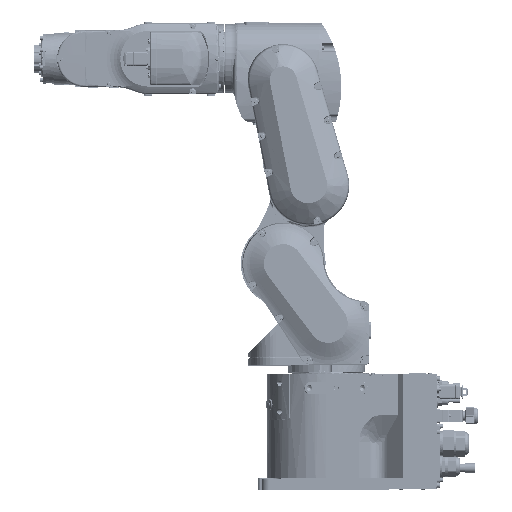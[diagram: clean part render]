
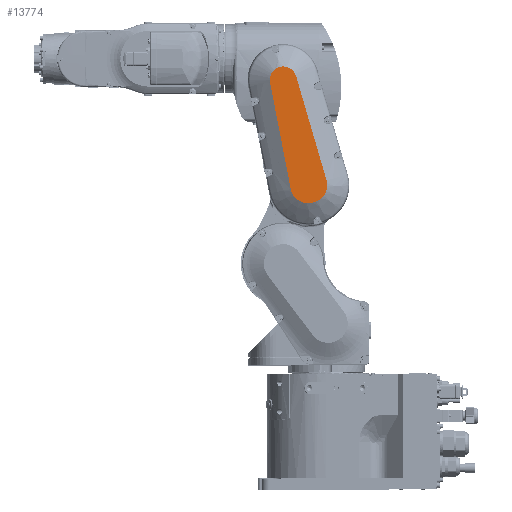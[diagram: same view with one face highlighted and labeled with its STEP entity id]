
A CAD part, top view. The second image highlights one B-rep face of the part: STEP entity #13774.
In plain terms, the highlighted planar face has unit normal (0, 0, 1).
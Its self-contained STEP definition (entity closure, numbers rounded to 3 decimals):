
#3783 = VERTEX_POINT ( 'NONE', #40633 ) ;
#4058 = PLANE ( 'NONE',  #230538 ) ;
#4965 = EDGE_CURVE ( 'NONE', #94850, #153814, #10475, .T. ) ;
#8621 = AXIS2_PLACEMENT_3D ( 'NONE', #164963, #31766, #148691 ) ;
#9289 = CIRCLE ( 'NONE', #148322, 23.991 ) ;
#10475 = CIRCLE ( 'NONE', #177390, 18.991 ) ;
#13774 = ADVANCED_FACE ( 'NONE', ( #21545 ), #4058, .F. ) ;
#15983 = CARTESIAN_POINT ( 'NONE',  ( 47.041, 166.832, 110. ) ) ;
#19100 = DIRECTION ( 'NONE',  ( 0., -1., 0. ) ) ;
#19559 = EDGE_CURVE ( 'NONE', #195968, #117550, #46855, .T. ) ;
#21545 = FACE_OUTER_BOUND ( 'NONE', #242878, .T. ) ;
#25167 = DIRECTION ( 'NONE',  ( 0., 0., 1. ) ) ;
#25589 = CARTESIAN_POINT ( 'NONE',  ( -18.642, 256.376, 110. ) ) ;
#28035 = DIRECTION ( 'NONE',  ( -0.982, -0.191, 0. ) ) ;
#28436 = CARTESIAN_POINT ( 'NONE',  ( 10.719, 105.265, 110. ) ) ;
#30471 = ORIENTED_EDGE ( 'NONE', *, *, #4965, .T. ) ;
#31766 = DIRECTION ( 'NONE',  ( 0., 0., 1. ) ) ;
#37071 = AXIS2_PLACEMENT_3D ( 'NONE', #101066, #177010, #82399 ) ;
#40633 = CARTESIAN_POINT ( 'NONE',  ( 10.716, 105.265, 110. ) ) ;
#44076 = DIRECTION ( 'NONE',  ( 0.982, 0.191, 0. ) ) ;
#46855 = LINE ( 'NONE', #67952, #214492 ) ;
#64671 = ORIENTED_EDGE ( 'NONE', *, *, #96827, .T. ) ;
#67952 = CARTESIAN_POINT ( 'NONE',  ( -18.653, 256.374, 110. ) ) ;
#69620 = EDGE_CURVE ( 'NONE', #3783, #117550, #103740, .T. ) ;
#70208 = VECTOR ( 'NONE', #28035, 1000. ) ;
#73162 = CARTESIAN_POINT ( 'NONE',  ( 32.632, 216.088, 110. ) ) ;
#73951 = VECTOR ( 'NONE', #44076, 1000. ) ;
#77278 = EDGE_CURVE ( 'NONE', #153814, #195968, #157494, .T. ) ;
#78698 = DIRECTION ( 'NONE',  ( 0.778, -0.628, 0. ) ) ;
#79918 = CARTESIAN_POINT ( 'NONE',  ( 38.414, 110.842, 110. ) ) ;
#82399 = DIRECTION ( 'NONE',  ( -0.407, -0.914, 0. ) ) ;
#89765 = ORIENTED_EDGE ( 'NONE', *, *, #93613, .T. ) ;
#89813 = EDGE_CURVE ( 'NONE', #187894, #225868, #108583, .T. ) ;
#93613 = EDGE_CURVE ( 'NONE', #3783, #187894, #171563, .T. ) ;
#94339 = EDGE_CURVE ( 'NONE', #153906, #94850, #154182, .T. ) ;
#94850 = VERTEX_POINT ( 'NONE', #201280 ) ;
#96008 = DIRECTION ( 'NONE',  ( 0.96, 0.281, 0. ) ) ;
#96827 = EDGE_CURVE ( 'NONE', #100136, #153906, #104345, .T. ) ;
#100136 = VERTEX_POINT ( 'NONE', #142911 ) ;
#101066 = CARTESIAN_POINT ( 'NONE',  ( 35.69, 113.04, 110. ) ) ;
#103740 = LINE ( 'NONE', #179639, #73951 ) ;
#104345 = LINE ( 'NONE', #120531, #168354 ) ;
#108583 = CIRCLE ( 'NONE', #37071, 27.491 ) ;
#117550 = VERTEX_POINT ( 'NONE', #28436 ) ;
#120531 = CARTESIAN_POINT ( 'NONE',  ( 61.441, 117.574, 110. ) ) ;
#132883 = CARTESIAN_POINT ( 'NONE',  ( 24.508, 87.926, 110. ) ) ;
#142911 = CARTESIAN_POINT ( 'NONE',  ( 61.441, 117.574, 110. ) ) ;
#144685 = ORIENTED_EDGE ( 'NONE', *, *, #69620, .F. ) ;
#148322 = AXIS2_PLACEMENT_3D ( 'NONE', #79918, #25167, #78698 ) ;
#148691 = DIRECTION ( 'NONE',  ( -0.982, -0.191, 0. ) ) ;
#153814 = VERTEX_POINT ( 'NONE', #204948 ) ;
#153906 = VERTEX_POINT ( 'NONE', #213907 ) ;
#154182 = B_SPLINE_CURVE_WITH_KNOTS ( 'NONE', 3,
 ( #243693, #15983, #73162, #206294 ),
 .UNSPECIFIED., .F., .F.,
 ( 4, 4 ),
 ( 0., 1. ),
 .UNSPECIFIED. ) ;
#157494 = LINE ( 'NONE', #25589, #70208 ) ;
#164484 = CARTESIAN_POINT ( 'NONE',  ( 57.085, 95.777, 110. ) ) ;
#164963 = CARTESIAN_POINT ( 'NONE',  ( 34.266, 109.843, 110. ) ) ;
#168354 = VECTOR ( 'NONE', #237542, 1000. ) ;
#171563 = CIRCLE ( 'NONE', #8621, 23.991 ) ;
#171970 = DIRECTION ( 'NONE',  ( 0., 0., 1. ) ) ;
#174165 = ORIENTED_EDGE ( 'NONE', *, *, #89813, .T. ) ;
#177010 = DIRECTION ( 'NONE',  ( 0., 0., 1. ) ) ;
#177390 = AXIS2_PLACEMENT_3D ( 'NONE', #188106, #171970, #96008 ) ;
#179639 = CARTESIAN_POINT ( 'NONE',  ( 10.716, 105.265, 110. ) ) ;
#183439 = ORIENTED_EDGE ( 'NONE', *, *, #19559, .T. ) ;
#187894 = VERTEX_POINT ( 'NONE', #132883 ) ;
#188106 = CARTESIAN_POINT ( 'NONE',  ( 0., 260., 110. ) ) ;
#188309 = ORIENTED_EDGE ( 'NONE', *, *, #77278, .T. ) ;
#189484 = CARTESIAN_POINT ( 'NONE',  ( 24.508, 87.926, 110. ) ) ;
#190797 = ORIENTED_EDGE ( 'NONE', *, *, #216809, .T. ) ;
#195968 = VERTEX_POINT ( 'NONE', #216181 ) ;
#201280 = CARTESIAN_POINT ( 'NONE',  ( 18.224, 265.344, 110. ) ) ;
#204948 = CARTESIAN_POINT ( 'NONE',  ( -18.642, 256.376, 110. ) ) ;
#206294 = CARTESIAN_POINT ( 'NONE',  ( 18.224, 265.344, 110. ) ) ;
#213907 = CARTESIAN_POINT ( 'NONE',  ( 61.449, 117.576, 110. ) ) ;
#214492 = VECTOR ( 'NONE', #221037, 1000. ) ;
#216181 = CARTESIAN_POINT ( 'NONE',  ( -18.653, 256.374, 110. ) ) ;
#216809 = EDGE_CURVE ( 'NONE', #225868, #100136, #9289, .T. ) ;
#219592 = ORIENTED_EDGE ( 'NONE', *, *, #94339, .T. ) ;
#221037 = DIRECTION ( 'NONE',  ( 0.191, -0.982, 0. ) ) ;
#225868 = VERTEX_POINT ( 'NONE', #164484 ) ;
#226920 = DIRECTION ( 'NONE',  ( 0., 0., -1. ) ) ;
#230538 = AXIS2_PLACEMENT_3D ( 'NONE', #189484, #226920, #19100 ) ;
#237542 = DIRECTION ( 'NONE',  ( 0.96, 0.281, 0. ) ) ;
#242878 = EDGE_LOOP ( 'NONE', ( #188309, #183439, #144685, #89765, #174165, #190797, #64671, #219592, #30471 ) ) ;
#243693 = CARTESIAN_POINT ( 'NONE',  ( 61.449, 117.576, 110. ) ) ;
